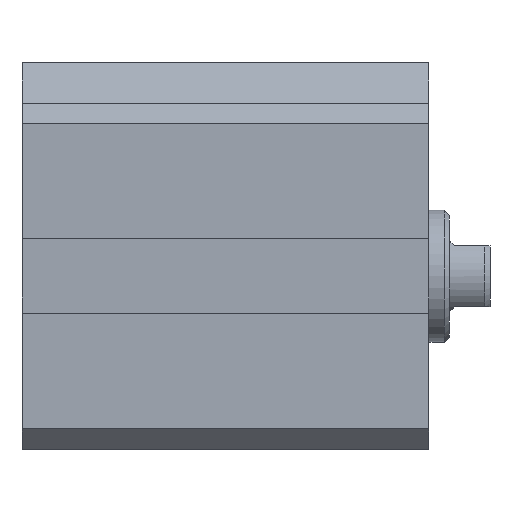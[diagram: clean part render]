
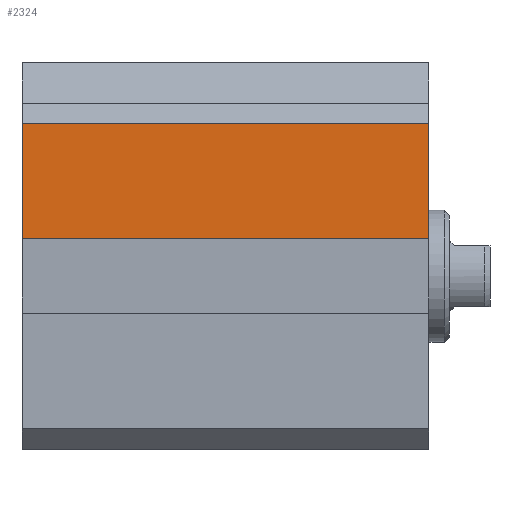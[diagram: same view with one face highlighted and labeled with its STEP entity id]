
A CAD part, left-side view. The second image highlights one B-rep face of the part: STEP entity #2324.
In plain terms, the highlighted planar face has unit normal (-1, 0, 0).
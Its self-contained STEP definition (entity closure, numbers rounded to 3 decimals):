
#75=LINE('',#3235,#197);
#76=LINE('',#3238,#198);
#77=LINE('',#3240,#199);
#78=LINE('',#3242,#200);
#197=VECTOR('',#2747,1000.);
#198=VECTOR('',#2748,1000.);
#199=VECTOR('',#2749,1000.);
#200=VECTOR('',#2750,1000.);
#319=PLANE('',#2484);
#434=ORIENTED_EDGE('',*,*,#817,.T.);
#435=ORIENTED_EDGE('',*,*,#818,.T.);
#436=ORIENTED_EDGE('',*,*,#819,.T.);
#437=ORIENTED_EDGE('',*,*,#820,.T.);
#817=EDGE_CURVE('',#1015,#1016,#75,.T.);
#818=EDGE_CURVE('',#1016,#1017,#76,.T.);
#819=EDGE_CURVE('',#1017,#1018,#77,.T.);
#820=EDGE_CURVE('',#1018,#1015,#78,.T.);
#1015=VERTEX_POINT('',#3236);
#1016=VERTEX_POINT('',#3237);
#1017=VERTEX_POINT('',#3239);
#1018=VERTEX_POINT('',#3241);
#1251=EDGE_LOOP('',(#434,#435,#436,#437));
#1435=FACE_BOUND('',#1251,.T.);
#2324=ADVANCED_FACE('',(#1435),#319,.T.);
#2484=AXIS2_PLACEMENT_3D('',#3234,#2745,#2746);
#2745=DIRECTION('',(-1.,0.,0.));
#2746=DIRECTION('',(0.,0.,1.));
#2747=DIRECTION('',(0.,1.,0.));
#2748=DIRECTION('',(0.,0.,-1.));
#2749=DIRECTION('',(0.,-1.,0.));
#2750=DIRECTION('',(0.,0.,1.));
#3234=CARTESIAN_POINT('',(-17.,10.,3.675));
#3235=CARTESIAN_POINT('',(-17.,10.,15.));
#3236=CARTESIAN_POINT('',(-17.,-20.,15.));
#3237=CARTESIAN_POINT('',(-17.,20.,15.));
#3238=CARTESIAN_POINT('',(-17.,20.,3.675));
#3239=CARTESIAN_POINT('',(-17.,20.,3.675));
#3240=CARTESIAN_POINT('',(-17.,10.,3.675));
#3241=CARTESIAN_POINT('',(-17.,-20.,3.675));
#3242=CARTESIAN_POINT('',(-17.,-20.,0.));
